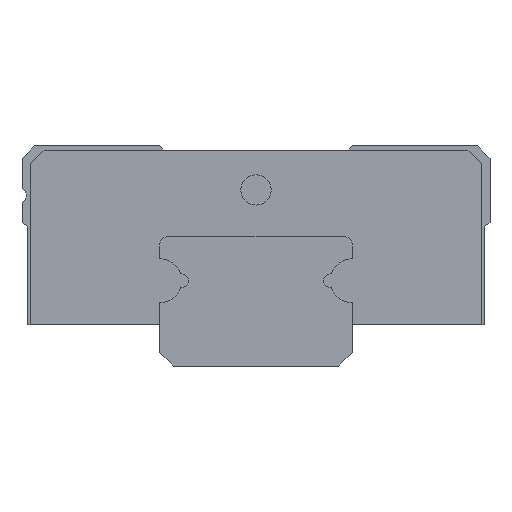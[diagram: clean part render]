
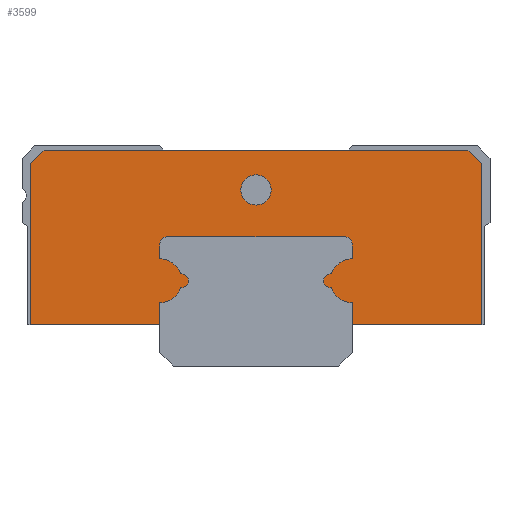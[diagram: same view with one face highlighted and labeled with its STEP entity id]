
A CAD part, left-side view. The second image highlights one B-rep face of the part: STEP entity #3599.
In plain terms, the highlighted planar face has unit normal (-1, 0, 0).
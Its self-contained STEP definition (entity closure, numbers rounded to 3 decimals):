
#1825=CARTESIAN_POINT('',(0.0,0.55,6.4));
#1826=VERTEX_POINT('',#1825);
#1827=CARTESIAN_POINT('',(0.0,0.0,6.4));
#1828=DIRECTION('',(1.0,0.0,0.0));
#1829=DIRECTION('',(0.0,-1.0,0.0));
#1830=AXIS2_PLACEMENT_3D('',#1827,#1828,#1829);
#1831=CIRCLE('',#1830,0.55);
#1832=EDGE_CURVE('',#1826,#1826,#1831,.T.);
#2814=CARTESIAN_POINT('',(0.0,-7.7,7.85));
#2815=VERTEX_POINT('',#2814);
#2822=CARTESIAN_POINT('',(0.0,-8.2,7.35));
#2823=VERTEX_POINT('',#2822);
#2824=CARTESIAN_POINT('',(0.0,-8.2,7.35));
#2825=DIRECTION('',(0.0,0.707,0.707));
#2826=VECTOR('',#2825,0.707);
#2827=LINE('',#2824,#2826);
#2828=EDGE_CURVE('',#2823,#2815,#2827,.T.);
#2877=CARTESIAN_POINT('',(0.0,-8.2,1.5));
#2878=VERTEX_POINT('',#2877);
#2879=CARTESIAN_POINT('',(0.0,-8.2,1.5));
#2880=DIRECTION('',(0.0,0.0,1.0));
#2881=VECTOR('',#2880,5.85);
#2882=LINE('',#2879,#2881);
#2883=EDGE_CURVE('',#2878,#2823,#2882,.T.);
#2924=CARTESIAN_POINT('',(0.0,8.2,1.5));
#2925=VERTEX_POINT('',#2924);
#2932=CARTESIAN_POINT('',(0.0,8.2,7.35));
#2933=VERTEX_POINT('',#2932);
#2934=CARTESIAN_POINT('',(0.0,8.2,7.35));
#2935=DIRECTION('',(0.0,0.0,-1.0));
#2936=VECTOR('',#2935,5.85);
#2937=LINE('',#2934,#2936);
#2938=EDGE_CURVE('',#2933,#2925,#2937,.T.);
#2987=CARTESIAN_POINT('',(0.0,7.7,7.85));
#2988=VERTEX_POINT('',#2987);
#2989=CARTESIAN_POINT('',(0.0,7.7,7.85));
#2990=DIRECTION('',(0.0,0.707,-0.707));
#2991=VECTOR('',#2990,0.707);
#2992=LINE('',#2989,#2991);
#2993=EDGE_CURVE('',#2988,#2933,#2992,.T.);
#3041=CARTESIAN_POINT('',(0.0,3.5,1.5));
#3042=VERTEX_POINT('',#3041);
#3049=CARTESIAN_POINT('',(0.0,8.2,1.5));
#3050=DIRECTION('',(0.0,-1.0,0.0));
#3051=VECTOR('',#3050,4.7);
#3052=LINE('',#3049,#3051);
#3053=EDGE_CURVE('',#2925,#3042,#3052,.T.);
#3076=CARTESIAN_POINT('',(0.0,3.5,2.3));
#3077=VERTEX_POINT('',#3076);
#3084=CARTESIAN_POINT('',(0.0,3.5,1.5));
#3085=DIRECTION('',(0.0,0.0,1.0));
#3086=VECTOR('',#3085,0.8);
#3087=LINE('',#3084,#3086);
#3088=EDGE_CURVE('',#3042,#3077,#3087,.T.);
#3108=CARTESIAN_POINT('',(0.0,2.739,2.853));
#3109=VERTEX_POINT('',#3108);
#3116=CARTESIAN_POINT('',(0.0,3.5,3.1));
#3117=DIRECTION('',(-1.,0.0,0.0));
#3118=DIRECTION('',(0.0,0.951,0.309));
#3119=AXIS2_PLACEMENT_3D('',#3116,#3117,#3118);
#3120=CIRCLE('',#3119,0.8);
#3121=EDGE_CURVE('',#3077,#3109,#3120,.T.);
#3141=CARTESIAN_POINT('',(0.0,2.739,3.347));
#3142=VERTEX_POINT('',#3141);
#3149=CARTESIAN_POINT('',(0.0,2.7,3.1));
#3150=DIRECTION('',(-1.0,0.0,0.0));
#3151=DIRECTION('',(0.0,-0.156,-0.988));
#3152=AXIS2_PLACEMENT_3D('',#3149,#3150,#3151);
#3153=CIRCLE('',#3152,0.25);
#3154=EDGE_CURVE('',#3109,#3142,#3153,.T.);
#3174=CARTESIAN_POINT('',(0.0,3.5,3.9));
#3175=VERTEX_POINT('',#3174);
#3182=CARTESIAN_POINT('',(0.0,3.5,3.1));
#3183=DIRECTION('',(-1.0,0.0,0.0));
#3184=DIRECTION('',(0.0,0.0,-1.0));
#3185=AXIS2_PLACEMENT_3D('',#3182,#3183,#3184);
#3186=CIRCLE('',#3185,0.8);
#3187=EDGE_CURVE('',#3142,#3175,#3186,.T.);
#3206=CARTESIAN_POINT('',(0.0,3.5,4.4));
#3207=VERTEX_POINT('',#3206);
#3214=CARTESIAN_POINT('',(0.0,3.5,3.9));
#3215=DIRECTION('',(0.0,0.0,1.0));
#3216=VECTOR('',#3215,0.5);
#3217=LINE('',#3214,#3216);
#3218=EDGE_CURVE('',#3175,#3207,#3217,.T.);
#3238=CARTESIAN_POINT('',(0.0,3.2,4.7));
#3239=VERTEX_POINT('',#3238);
#3246=CARTESIAN_POINT('',(0.0,3.2,4.4));
#3247=DIRECTION('',(1.0,0.0,0.0));
#3248=DIRECTION('',(0.0,1.0,0.0));
#3249=AXIS2_PLACEMENT_3D('',#3246,#3247,#3248);
#3250=CIRCLE('',#3249,0.3);
#3251=EDGE_CURVE('',#3207,#3239,#3250,.T.);
#3270=CARTESIAN_POINT('',(0.0,-3.2,4.7));
#3271=VERTEX_POINT('',#3270);
#3278=CARTESIAN_POINT('',(0.0,3.2,4.7));
#3279=DIRECTION('',(0.0,-1.0,0.0));
#3280=VECTOR('',#3279,6.4);
#3281=LINE('',#3278,#3280);
#3282=EDGE_CURVE('',#3239,#3271,#3281,.T.);
#3302=CARTESIAN_POINT('',(0.0,-3.5,4.4));
#3303=VERTEX_POINT('',#3302);
#3310=CARTESIAN_POINT('',(0.0,-3.2,4.4));
#3311=DIRECTION('',(1.0,0.0,0.0));
#3312=DIRECTION('',(0.0,0.0,1.0));
#3313=AXIS2_PLACEMENT_3D('',#3310,#3311,#3312);
#3314=CIRCLE('',#3313,0.3);
#3315=EDGE_CURVE('',#3271,#3303,#3314,.T.);
#3334=CARTESIAN_POINT('',(0.0,-3.5,3.9));
#3335=VERTEX_POINT('',#3334);
#3342=CARTESIAN_POINT('',(0.0,-3.5,4.4));
#3343=DIRECTION('',(0.0,0.0,-1.0));
#3344=VECTOR('',#3343,0.5);
#3345=LINE('',#3342,#3344);
#3346=EDGE_CURVE('',#3303,#3335,#3345,.T.);
#3366=CARTESIAN_POINT('',(0.0,-2.739,3.347));
#3367=VERTEX_POINT('',#3366);
#3374=CARTESIAN_POINT('',(0.0,-3.5,3.1));
#3375=DIRECTION('',(-1.,0.0,0.0));
#3376=DIRECTION('',(0.0,-0.951,-0.309));
#3377=AXIS2_PLACEMENT_3D('',#3374,#3375,#3376);
#3378=CIRCLE('',#3377,0.8);
#3379=EDGE_CURVE('',#3335,#3367,#3378,.T.);
#3399=CARTESIAN_POINT('',(0.0,-2.739,2.853));
#3400=VERTEX_POINT('',#3399);
#3407=CARTESIAN_POINT('',(0.0,-2.7,3.1));
#3408=DIRECTION('',(-1.,0.0,0.0));
#3409=DIRECTION('',(0.0,0.156,0.988));
#3410=AXIS2_PLACEMENT_3D('',#3407,#3408,#3409);
#3411=CIRCLE('',#3410,0.25);
#3412=EDGE_CURVE('',#3367,#3400,#3411,.T.);
#3432=CARTESIAN_POINT('',(0.0,-3.5,2.3));
#3433=VERTEX_POINT('',#3432);
#3440=CARTESIAN_POINT('',(0.0,-3.5,3.1));
#3441=DIRECTION('',(-1.0,0.0,0.0));
#3442=DIRECTION('',(0.0,0.0,1.0));
#3443=AXIS2_PLACEMENT_3D('',#3440,#3441,#3442);
#3444=CIRCLE('',#3443,0.8);
#3445=EDGE_CURVE('',#3400,#3433,#3444,.T.);
#3464=CARTESIAN_POINT('',(0.0,-3.5,1.5));
#3465=VERTEX_POINT('',#3464);
#3472=CARTESIAN_POINT('',(0.0,-3.5,2.3));
#3473=DIRECTION('',(0.0,0.0,-1.0));
#3474=VECTOR('',#3473,0.8);
#3475=LINE('',#3472,#3474);
#3476=EDGE_CURVE('',#3433,#3465,#3475,.T.);
#3498=CARTESIAN_POINT('',(0.0,-3.5,1.5));
#3499=DIRECTION('',(0.0,-1.0,0.0));
#3500=VECTOR('',#3499,4.7);
#3501=LINE('',#3498,#3500);
#3502=EDGE_CURVE('',#3465,#2878,#3501,.T.);
#3526=CARTESIAN_POINT('',(0.0,-7.7,7.85));
#3527=DIRECTION('',(0.0,1.0,0.0));
#3528=VECTOR('',#3527,15.4);
#3529=LINE('',#3526,#3528);
#3530=EDGE_CURVE('',#2815,#2988,#3529,.T.);
#3569=CARTESIAN_POINT('',(0.0,0.,4.793));
#3570=DIRECTION('',(1.0,0.0,0.0));
#3571=DIRECTION('',(0.0,0.0,-1.0));
#3572=AXIS2_PLACEMENT_3D('',#3569,#3570,#3571);
#3573=PLANE('',#3572);
#3574=ORIENTED_EDGE('',*,*,#3530,.T.);
#3575=ORIENTED_EDGE('',*,*,#2993,.T.);
#3576=ORIENTED_EDGE('',*,*,#2938,.T.);
#3577=ORIENTED_EDGE('',*,*,#3053,.T.);
#3578=ORIENTED_EDGE('',*,*,#3088,.T.);
#3579=ORIENTED_EDGE('',*,*,#3121,.T.);
#3580=ORIENTED_EDGE('',*,*,#3154,.T.);
#3581=ORIENTED_EDGE('',*,*,#3187,.T.);
#3582=ORIENTED_EDGE('',*,*,#3218,.T.);
#3583=ORIENTED_EDGE('',*,*,#3251,.T.);
#3584=ORIENTED_EDGE('',*,*,#3282,.T.);
#3585=ORIENTED_EDGE('',*,*,#3315,.T.);
#3586=ORIENTED_EDGE('',*,*,#3346,.T.);
#3587=ORIENTED_EDGE('',*,*,#3379,.T.);
#3588=ORIENTED_EDGE('',*,*,#3412,.T.);
#3589=ORIENTED_EDGE('',*,*,#3445,.T.);
#3590=ORIENTED_EDGE('',*,*,#3476,.T.);
#3591=ORIENTED_EDGE('',*,*,#3502,.T.);
#3592=ORIENTED_EDGE('',*,*,#2883,.T.);
#3593=ORIENTED_EDGE('',*,*,#2828,.T.);
#3594=EDGE_LOOP('',(#3574,#3575,#3576,#3577,#3578,#3579,#3580,#3581,#3582,#3583,#3584,#3585,#3586,#3587,#3588,#3589,#3590,#3591,#3592,#3593));
#3595=FACE_OUTER_BOUND('',#3594,.T.);
#3596=ORIENTED_EDGE('',*,*,#1832,.T.);
#3597=EDGE_LOOP('',(#3596));
#3598=FACE_BOUND('',#3597,.T.);
#3599=ADVANCED_FACE('',(#3595,#3598),#3573,.F.);
